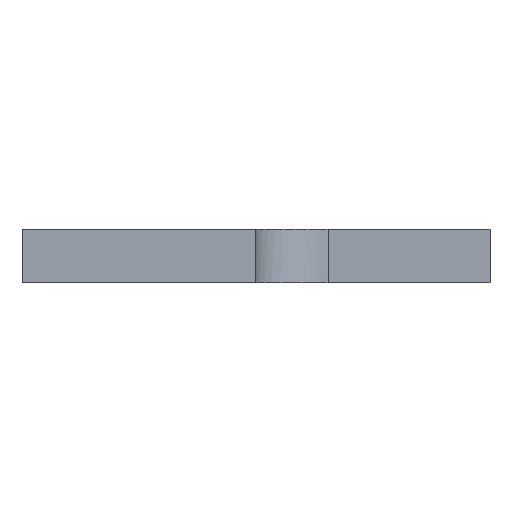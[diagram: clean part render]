
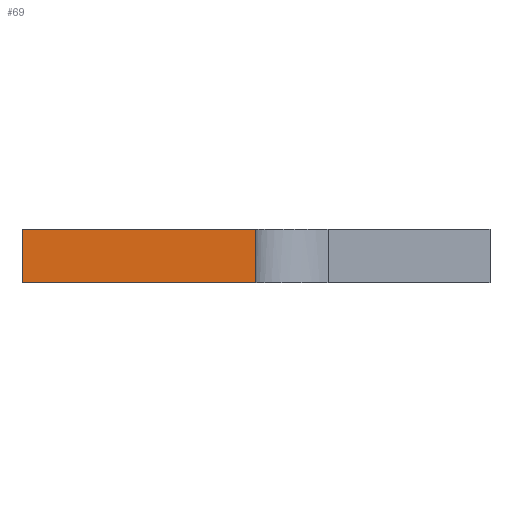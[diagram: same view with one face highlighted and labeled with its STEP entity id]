
A CAD part, left-side view. The second image highlights one B-rep face of the part: STEP entity #69.
In plain terms, the highlighted planar face has unit normal (-1, 0, 0).
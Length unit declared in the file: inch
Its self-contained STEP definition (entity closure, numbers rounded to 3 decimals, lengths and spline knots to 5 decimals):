
#69=ADVANCED_FACE('',(#151),#152,.T.);
#151=FACE_OUTER_BOUND('',#286,.T.);
#152=PLANE('',#287);
#286=EDGE_LOOP('',(#496,#497,#498,#499));
#287=AXIS2_PLACEMENT_3D('',#500,#501,#502);
#496=ORIENTED_EDGE('',*,*,#699,.T.);
#497=ORIENTED_EDGE('',*,*,#700,.F.);
#498=ORIENTED_EDGE('',*,*,#701,.T.);
#499=ORIENTED_EDGE('',*,*,#702,.T.);
#500=CARTESIAN_POINT('',(1.79715,6.32464,0.0));
#501=DIRECTION('',(-1.0,0.0,0.0));
#502=DIRECTION('',(0.0,-1.0,0.0));
#699=EDGE_CURVE('',#832,#833,#834,.T.);
#700=EDGE_CURVE('',#835,#833,#836,.T.);
#701=EDGE_CURVE('',#835,#837,#838,.T.);
#702=EDGE_CURVE('',#837,#832,#839,.T.);
#832=VERTEX_POINT('',#1040);
#833=VERTEX_POINT('',#1041);
#834=LINE('',#1042,#1043);
#835=VERTEX_POINT('',#1044);
#836=LINE('',#1045,#1046);
#837=VERTEX_POINT('',#1047);
#838=LINE('',#1048,#1049);
#839=LINE('',#1050,#1051);
#1040=CARTESIAN_POINT('',(1.79715,5.51209,0.375));
#1041=CARTESIAN_POINT('',(1.79715,7.13719,0.375));
#1042=CARTESIAN_POINT('',(1.79715,7.13719,0.375));
#1043=VECTOR('',#1255,1.0);
#1044=CARTESIAN_POINT('',(1.79715,7.13719,0.0));
#1045=CARTESIAN_POINT('',(1.79715,7.13719,0.0));
#1046=VECTOR('',#1256,1.0);
#1047=CARTESIAN_POINT('',(1.79715,5.51209,0.0));
#1048=CARTESIAN_POINT('',(1.79715,7.13719,0.0));
#1049=VECTOR('',#1257,1.0);
#1050=CARTESIAN_POINT('',(1.79715,5.51209,0.0));
#1051=VECTOR('',#1258,1.0);
#1255=DIRECTION('',(0.0,1.0,0.0));
#1256=DIRECTION('',(0.0,0.0,1.0));
#1257=DIRECTION('',(0.0,-1.0,0.0));
#1258=DIRECTION('',(0.0,0.0,1.0));
